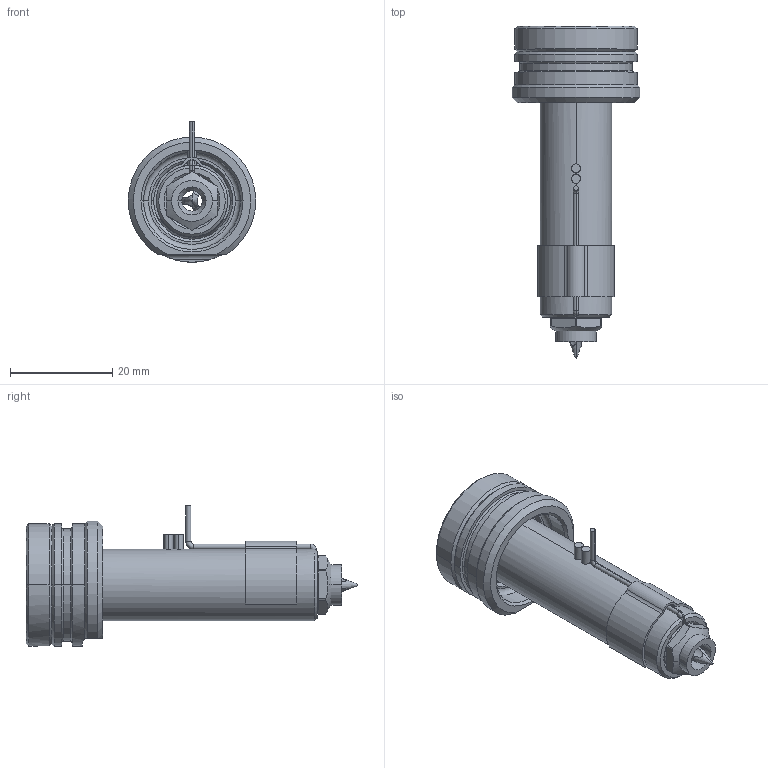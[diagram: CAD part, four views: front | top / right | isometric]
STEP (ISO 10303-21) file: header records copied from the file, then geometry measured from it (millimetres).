
FILE_DESCRIPTION((''),'2;1');
FILE_NAME('EO04_PG-BL_WR_050_SW','2024-02-19T10:58:50',('sundharh'),(''),'CREO PARAMETRIC BY PTC INC, 2023154','CREO PARAMETRIC BY PTC INC, 2023154','');
FILE_SCHEMA(('CONFIG_CONTROL_DESIGN'));
Length unit declared in the file: millimetre
Products named in the file (1): EO04_PG-BL_WR_050_SW
Bounding box: 24.99 x 65 x 27.5 mm (x, y, z)
Volume: 12173.1 mm3; surface area: 6788.2 mm2
Topology: 2 solids, 2 shells, 222 faces, 595 edges, 364 vertices
Faces by surface type: cylinder 84, plane 59, cone 44, torus 22, bspline 11, sphere 2
Entity records: 8103 total; most frequent: CARTESIAN_POINT 2496, DIRECTION 1219, ORIENTED_EDGE 1178, EDGE_CURVE 589, AXIS2_PLACEMENT_3D 511, VERTEX_POINT 364, CIRCLE 300, EDGE_LOOP 237
